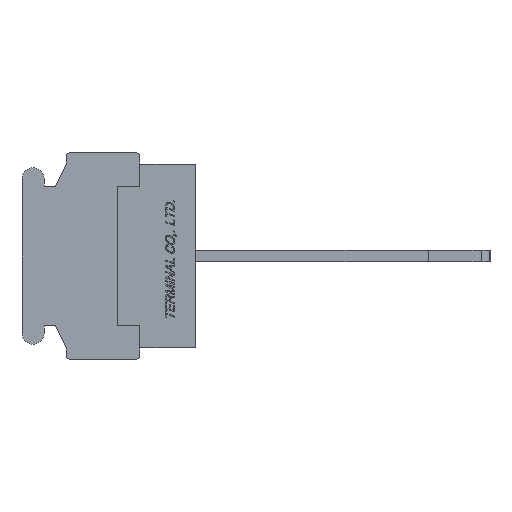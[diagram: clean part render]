
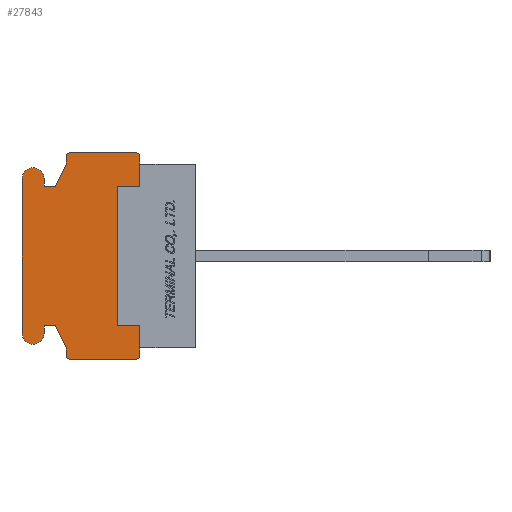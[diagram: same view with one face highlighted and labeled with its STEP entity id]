
A CAD part, left-side view. The second image highlights one B-rep face of the part: STEP entity #27843.
In plain terms, the highlighted planar face has unit normal (-1, 0, 0).
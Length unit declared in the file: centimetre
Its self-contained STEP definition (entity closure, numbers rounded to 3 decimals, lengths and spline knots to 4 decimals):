
#1408=CIRCLE('',#46825,0.02);
#1409=CIRCLE('',#46829,0.02);
#1410=CIRCLE('',#46832,0.02);
#1411=CIRCLE('',#46838,0.075);
#1412=CIRCLE('',#46841,0.075);
#1413=CIRCLE('',#46847,0.02);
#3852=VERTEX_POINT('',#43412);
#3853=VERTEX_POINT('',#43414);
#3854=VERTEX_POINT('',#43418);
#3855=VERTEX_POINT('',#43422);
#3856=VERTEX_POINT('',#43424);
#3857=VERTEX_POINT('',#43428);
#3858=VERTEX_POINT('',#43432);
#3859=VERTEX_POINT('',#43436);
#3860=VERTEX_POINT('',#43440);
#3861=VERTEX_POINT('',#43444);
#3862=VERTEX_POINT('',#43448);
#3863=VERTEX_POINT('',#43452);
#3864=VERTEX_POINT('',#43456);
#3865=VERTEX_POINT('',#43460);
#3866=VERTEX_POINT('',#43464);
#3867=VERTEX_POINT('',#43468);
#3868=VERTEX_POINT('',#43472);
#3869=VERTEX_POINT('',#43476);
#3870=VERTEX_POINT('',#43480);
#3871=VERTEX_POINT('',#43484);
#3872=VERTEX_POINT('',#43490);
#3873=VERTEX_POINT('',#43492);
#3874=VERTEX_POINT('',#43494);
#3875=VERTEX_POINT('',#43496);
#6870=VECTOR('',#34495,1.);
#6872=VECTOR('',#34498,1.);
#6876=VECTOR('',#34507,1.);
#6879=VECTOR('',#34515,1.);
#6881=VECTOR('',#34518,1.);
#6883=VECTOR('',#34521,1.);
#6885=VECTOR('',#34524,1.);
#6888=VECTOR('',#34532,1.);
#6891=VECTOR('',#34540,1.);
#6893=VECTOR('',#34543,1.);
#6895=VECTOR('',#34546,1.);
#6897=VECTOR('',#34549,1.);
#6899=VECTOR('',#34556,1.);
#6900=VECTOR('',#34558,1.);
#6901=VECTOR('',#34559,1.);
#6902=VECTOR('',#34560,1.);
#6903=VECTOR('',#34561,1.);
#6904=VECTOR('',#34562,1.);
#9966=LINE('',#43419,#6870);
#9968=LINE('',#43423,#6872);
#9972=LINE('',#43433,#6876);
#9975=LINE('',#43441,#6879);
#9977=LINE('',#43445,#6881);
#9979=LINE('',#43449,#6883);
#9981=LINE('',#43453,#6885);
#9984=LINE('',#43461,#6888);
#9987=LINE('',#43469,#6891);
#9989=LINE('',#43473,#6893);
#9991=LINE('',#43477,#6895);
#9993=LINE('',#43481,#6897);
#9995=LINE('',#43487,#6899);
#9996=LINE('',#43489,#6900);
#9997=LINE('',#43491,#6901);
#9998=LINE('',#43493,#6902);
#9999=LINE('',#43495,#6903);
#10000=LINE('',#43497,#6904);
#14090=EDGE_CURVE('',#3852,#3853,#1408,.T.);
#14093=EDGE_CURVE('',#3854,#3852,#9966,.T.);
#14095=EDGE_CURVE('',#3855,#3856,#9968,.T.);
#14098=EDGE_CURVE('',#3857,#3855,#1409,.T.);
#14100=EDGE_CURVE('',#3858,#3857,#9972,.T.);
#14102=EDGE_CURVE('',#3859,#3858,#1410,.T.);
#14104=EDGE_CURVE('',#3860,#3859,#9975,.T.);
#14106=EDGE_CURVE('',#3861,#3860,#9977,.T.);
#14108=EDGE_CURVE('',#3862,#3861,#9979,.T.);
#14110=EDGE_CURVE('',#3863,#3862,#9981,.T.);
#14112=EDGE_CURVE('',#3864,#3863,#1411,.T.);
#14114=EDGE_CURVE('',#3865,#3864,#9984,.T.);
#14116=EDGE_CURVE('',#3866,#3865,#1412,.T.);
#14118=EDGE_CURVE('',#3867,#3866,#9987,.T.);
#14120=EDGE_CURVE('',#3868,#3867,#9989,.T.);
#14122=EDGE_CURVE('',#3869,#3868,#9991,.T.);
#14124=EDGE_CURVE('',#3870,#3869,#9993,.T.);
#14126=EDGE_CURVE('',#3871,#3870,#1413,.T.);
#14127=EDGE_CURVE('',#3853,#3871,#9995,.T.);
#14128=EDGE_CURVE('',#3872,#3856,#9996,.T.);
#14129=EDGE_CURVE('',#3854,#3873,#9997,.T.);
#14130=EDGE_CURVE('',#3873,#3874,#9998,.T.);
#14131=EDGE_CURVE('',#3874,#3875,#9999,.T.);
#14132=EDGE_CURVE('',#3875,#3872,#10000,.T.);
#21984=ORIENTED_EDGE('',*,*,#14128,.T.);
#21985=ORIENTED_EDGE('',*,*,#14095,.F.);
#21986=ORIENTED_EDGE('',*,*,#14098,.F.);
#21987=ORIENTED_EDGE('',*,*,#14100,.F.);
#21988=ORIENTED_EDGE('',*,*,#14102,.F.);
#21989=ORIENTED_EDGE('',*,*,#14104,.F.);
#21990=ORIENTED_EDGE('',*,*,#14106,.F.);
#21991=ORIENTED_EDGE('',*,*,#14108,.F.);
#21992=ORIENTED_EDGE('',*,*,#14110,.F.);
#21993=ORIENTED_EDGE('',*,*,#14112,.F.);
#21994=ORIENTED_EDGE('',*,*,#14114,.F.);
#21995=ORIENTED_EDGE('',*,*,#14116,.F.);
#21996=ORIENTED_EDGE('',*,*,#14118,.F.);
#21997=ORIENTED_EDGE('',*,*,#14120,.F.);
#21998=ORIENTED_EDGE('',*,*,#14122,.F.);
#21999=ORIENTED_EDGE('',*,*,#14124,.F.);
#22000=ORIENTED_EDGE('',*,*,#14126,.F.);
#22001=ORIENTED_EDGE('',*,*,#14127,.F.);
#22002=ORIENTED_EDGE('',*,*,#14090,.F.);
#22003=ORIENTED_EDGE('',*,*,#14093,.F.);
#22004=ORIENTED_EDGE('',*,*,#14129,.T.);
#22005=ORIENTED_EDGE('',*,*,#14130,.T.);
#22006=ORIENTED_EDGE('',*,*,#14131,.T.);
#22007=ORIENTED_EDGE('',*,*,#14132,.T.);
#24569=EDGE_LOOP('',(#21984,#21985,#21986,#21987,#21988,#21989,#21990,#21991,
#21992,#21993,#21994,#21995,#21996,#21997,#21998,#21999,#22000,#22001,#22002,
#22003,#22004,#22005,#22006,#22007));
#26251=FACE_BOUND('',#24569,.T.);
#27843=ADVANCED_FACE('',(#26251),#29013,.F.);
#29013=PLANE('',#46849);
#34490=DIRECTION('',(1.,0.,0.));
#34491=DIRECTION('',(0.,0.,-0.02));
#34495=DIRECTION('',(0.,0.,-1.));
#34498=DIRECTION('',(0.,0.,-1.));
#34503=DIRECTION('',(1.,0.,0.));
#34504=DIRECTION('',(0.,0.,-0.02));
#34507=DIRECTION('',(0.,-1.,0.));
#34511=DIRECTION('',(1.,0.,0.));
#34512=DIRECTION('',(0.,0.,-0.02));
#34515=DIRECTION('',(0.,0.,1.));
#34518=DIRECTION('',(0.,-0.447,0.894));
#34521=DIRECTION('',(0.,-1.,0.));
#34524=DIRECTION('',(0.,0.,-1.));
#34528=DIRECTION('',(1.,0.,0.));
#34529=DIRECTION('',(0.,0.,-0.075));
#34532=DIRECTION('',(0.,0.,1.));
#34536=DIRECTION('',(1.,0.,0.));
#34537=DIRECTION('',(0.,0.,-0.075));
#34540=DIRECTION('',(0.,0.,-1.));
#34543=DIRECTION('',(0.,1.,0.));
#34546=DIRECTION('',(0.,0.447,0.894));
#34549=DIRECTION('',(0.,0.,1.));
#34553=DIRECTION('',(1.,0.,0.));
#34554=DIRECTION('',(0.,0.,-0.02));
#34556=DIRECTION('',(0.,1.,0.));
#34557=DIRECTION('',(1.,0.,0.));
#34558=DIRECTION('',(0.,0.,1.));
#34559=DIRECTION('',(0.,0.,1.));
#34560=DIRECTION('',(0.,1.,0.));
#34561=DIRECTION('',(0.,0.,1.));
#34562=DIRECTION('',(0.,-1.,0.));
#43412=CARTESIAN_POINT('',(-0.762,0.38,-0.68));
#43413=CARTESIAN_POINT('',(-0.762,0.4,-0.68));
#43414=CARTESIAN_POINT('',(-0.762,0.4,-0.7));
#43418=CARTESIAN_POINT('',(-0.762,0.38,-0.625));
#43419=CARTESIAN_POINT('',(-0.762,0.38,-0.625));
#43422=CARTESIAN_POINT('',(-0.762,0.38,0.68));
#43423=CARTESIAN_POINT('',(-0.762,0.38,0.68));
#43424=CARTESIAN_POINT('',(-0.762,0.38,0.625));
#43428=CARTESIAN_POINT('',(-0.762,0.4,0.7));
#43429=CARTESIAN_POINT('',(-0.762,0.4,0.68));
#43432=CARTESIAN_POINT('',(-0.762,0.86,0.7));
#43433=CARTESIAN_POINT('',(-0.762,0.86,0.7));
#43436=CARTESIAN_POINT('',(-0.762,0.88,0.68));
#43437=CARTESIAN_POINT('',(-0.762,0.86,0.68));
#43440=CARTESIAN_POINT('',(-0.762,0.88,0.625));
#43441=CARTESIAN_POINT('',(-0.762,0.88,0.625));
#43444=CARTESIAN_POINT('',(-0.762,0.955,0.475));
#43445=CARTESIAN_POINT('',(-0.762,0.955,0.475));
#43448=CARTESIAN_POINT('',(-0.762,1.03,0.475));
#43449=CARTESIAN_POINT('',(-0.762,1.03,0.475));
#43452=CARTESIAN_POINT('',(-0.762,1.03,0.525));
#43453=CARTESIAN_POINT('',(-0.762,1.03,0.525));
#43456=CARTESIAN_POINT('',(-0.762,1.18,0.525));
#43457=CARTESIAN_POINT('',(-0.762,1.105,0.525));
#43460=CARTESIAN_POINT('',(-0.762,1.18,-0.525));
#43461=CARTESIAN_POINT('',(-0.762,1.18,-0.525));
#43464=CARTESIAN_POINT('',(-0.762,1.03,-0.525));
#43465=CARTESIAN_POINT('',(-0.762,1.105,-0.525));
#43468=CARTESIAN_POINT('',(-0.762,1.03,-0.475));
#43469=CARTESIAN_POINT('',(-0.762,1.03,-0.475));
#43472=CARTESIAN_POINT('',(-0.762,0.955,-0.475));
#43473=CARTESIAN_POINT('',(-0.762,0.955,-0.475));
#43476=CARTESIAN_POINT('',(-0.762,0.88,-0.625));
#43477=CARTESIAN_POINT('',(-0.762,0.88,-0.625));
#43480=CARTESIAN_POINT('',(-0.762,0.88,-0.68));
#43481=CARTESIAN_POINT('',(-0.762,0.88,-0.68));
#43484=CARTESIAN_POINT('',(-0.762,0.86,-0.7));
#43485=CARTESIAN_POINT('',(-0.762,0.86,-0.68));
#43487=CARTESIAN_POINT('',(-0.762,0.4,-0.7));
#43488=CARTESIAN_POINT('',(-0.762,0.6059,0.));
#43489=CARTESIAN_POINT('',(-0.762,0.38,0.475));
#43490=CARTESIAN_POINT('',(-0.762,0.38,0.475));
#43491=CARTESIAN_POINT('',(-0.762,0.38,-0.625));
#43492=CARTESIAN_POINT('',(-0.762,0.38,-0.475));
#43493=CARTESIAN_POINT('',(-0.762,0.38,-0.475));
#43494=CARTESIAN_POINT('',(-0.762,0.53,-0.475));
#43495=CARTESIAN_POINT('',(-0.762,0.53,-0.475));
#43496=CARTESIAN_POINT('',(-0.762,0.53,0.475));
#43497=CARTESIAN_POINT('',(-0.762,0.53,0.475));
#46825=AXIS2_PLACEMENT_3D('',#43413,#34490,#34491);
#46829=AXIS2_PLACEMENT_3D('',#43429,#34503,#34504);
#46832=AXIS2_PLACEMENT_3D('',#43437,#34511,#34512);
#46838=AXIS2_PLACEMENT_3D('',#43457,#34528,#34529);
#46841=AXIS2_PLACEMENT_3D('',#43465,#34536,#34537);
#46847=AXIS2_PLACEMENT_3D('',#43485,#34553,#34554);
#46849=AXIS2_PLACEMENT_3D('',#43488,#34557,$);
